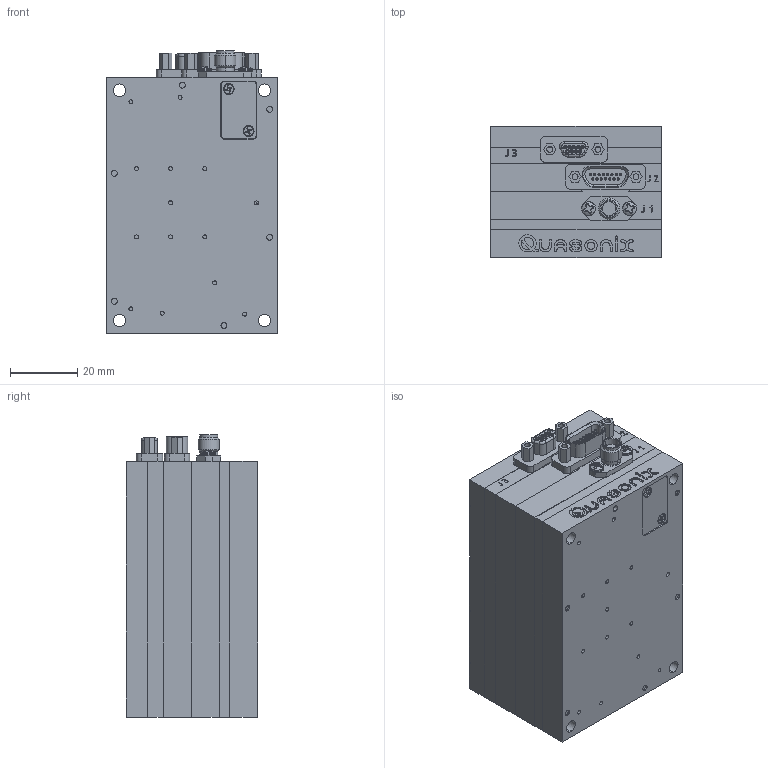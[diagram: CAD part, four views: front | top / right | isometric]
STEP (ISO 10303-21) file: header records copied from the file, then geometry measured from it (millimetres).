
FILE_DESCRIPTION (( 'STEP AP203' ), '1' );
FILE_NAME ('09AA_12-12-13.STEP', '2013-12-12T18:13:09', ( 'Quasonix' ), ( '' ), 'SwSTEP 2.0', 'SolidWorks 2012', '' );
FILE_SCHEMA (( 'CONFIG_CONTROL_DESIGN' ));
Length unit declared in the file: inch
Products named in the file (1): 09AA_12-12-13
Bounding box: 50.8 x 39.03 x 84.14 mm (x, y, z)
Surface area: 29858.3 mm2 (no closed solid volume)
Topology: 0 solids, 63 shells, 987 faces, 3583 edges, 2631 vertices
Faces by surface type: plane 505, cylinder 216, cone 169, bspline 78, torus 15, sphere 4
Entity records: 40749 total; most frequent: CARTESIAN_POINT 10681, DIRECTION 6060, ORIENTED_EDGE 5884, EDGE_CURVE 3551, VERTEX_POINT 2631, AXIS2_PLACEMENT_3D 2198, VECTOR 1664, LINE 1664
